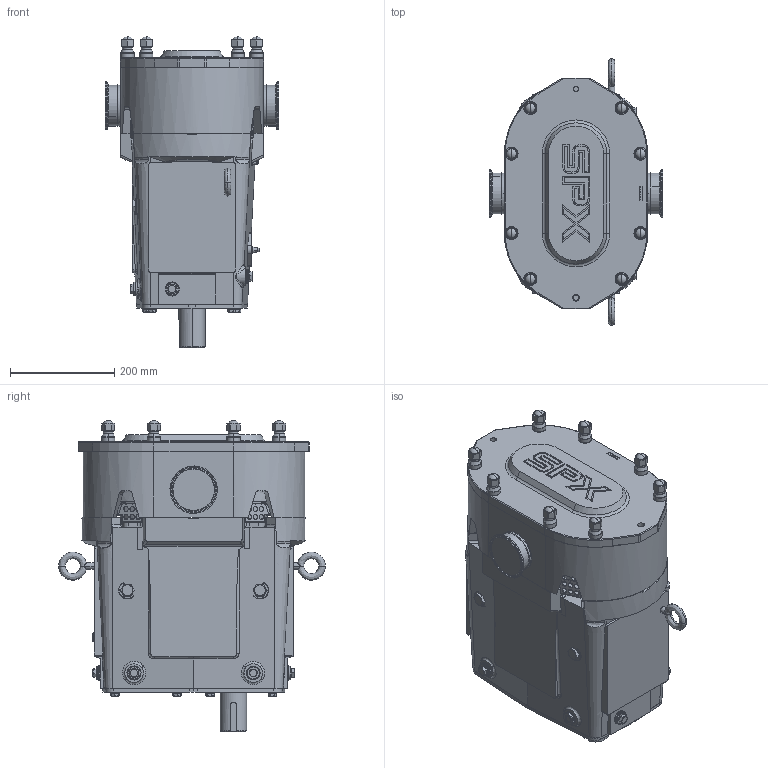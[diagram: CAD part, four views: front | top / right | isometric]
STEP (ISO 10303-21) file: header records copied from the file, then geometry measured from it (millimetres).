
FILE_DESCRIPTION (( 'STEP AP214' ), '1' );
FILE_NAME ('Model 180 Universal 3 Series Side Mount RH.STEP', '2017-11-27T14:32:54', ( '' ), ( '' ), 'SwSTEP 2.0', 'SolidWorks 2014', '' );
FILE_SCHEMA (( 'AUTOMOTIVE_DESIGN' ));
Length unit declared in the file: inch
Products named in the file (1): Model 180 Universal 3 Series Side Mount RH
Bounding box: 331.76 x 511.18 x 596.34 mm (x, y, z)
Volume: 41041466.6 mm3; surface area: 1126131.5 mm2
Topology: 3 solids, 3 shells, 2177 faces, 5646 edges, 3547 vertices
Faces by surface type: plane 819, cylinder 597, torus 307, cone 274, bspline 164, sphere 16
Entity records: 81200 total; most frequent: CARTESIAN_POINT 28860, ORIENTED_EDGE 11244, DIRECTION 10820, EDGE_CURVE 5622, AXIS2_PLACEMENT_3D 4163, VERTEX_POINT 3547, LINE 2494, VECTOR 2494
